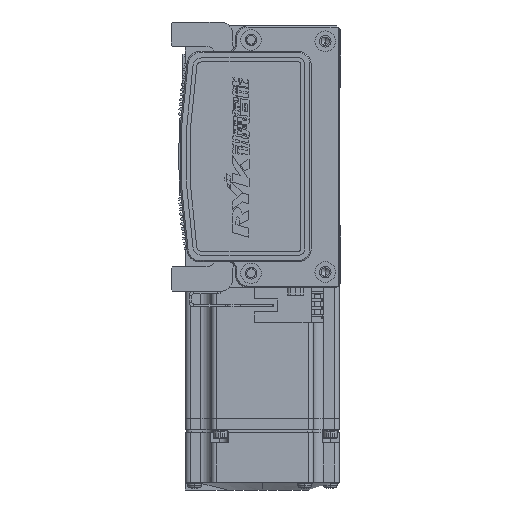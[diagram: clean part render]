
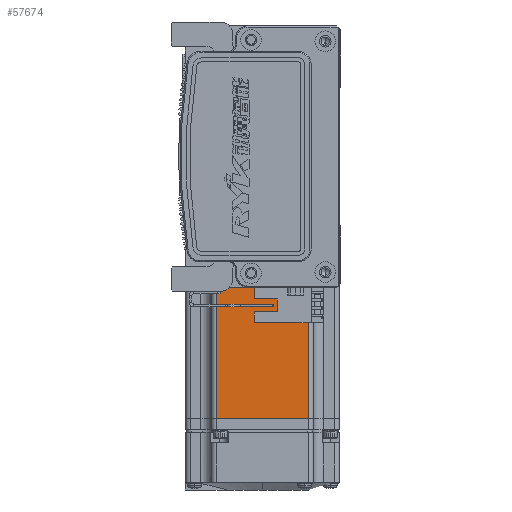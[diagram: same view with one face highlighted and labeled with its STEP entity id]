
A CAD part, left-side view. The second image highlights one B-rep face of the part: STEP entity #57674.
In plain terms, the highlighted planar face has unit normal (-1, 0, 0) as drawn and (0, 0, 1) by its records, which use the part's own axes.
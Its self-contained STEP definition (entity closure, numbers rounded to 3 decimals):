
#68 = LINE ( 'NONE', #31780, #12643 ) ;
#752 = CARTESIAN_POINT ( 'NONE',  ( -70.95, 18., 30. ) ) ;
#7444 = CARTESIAN_POINT ( 'NONE',  ( -6.5, -18., 30. ) ) ;
#12643 = VECTOR ( 'NONE', #46215, 1000. ) ;
#14830 = CARTESIAN_POINT ( 'NONE',  ( -70.95, -18., 30. ) ) ;
#15149 = ORIENTED_EDGE ( 'NONE', *, *, #42741, .F. ) ;
#21346 = VERTEX_POINT ( 'NONE', #752 ) ;
#24168 = VERTEX_POINT ( 'NONE', #58906 ) ;
#25101 = DIRECTION ( 'NONE',  ( 0., -1., 0. ) ) ;
#26485 = PLANE ( 'NONE',  #52940 ) ;
#26653 = DIRECTION ( 'NONE',  ( -1., 0., 0. ) ) ;
#27723 = VECTOR ( 'NONE', #52037, 1000. ) ;
#28506 = VERTEX_POINT ( 'NONE', #14830 ) ;
#29448 = CARTESIAN_POINT ( 'NONE',  ( -70.95, 0., 30. ) ) ;
#31508 = CARTESIAN_POINT ( 'NONE',  ( -6.5, -25., 30. ) ) ;
#31780 = CARTESIAN_POINT ( 'NONE',  ( -7.75, 0., 30. ) ) ;
#33301 = VECTOR ( 'NONE', #26653, 1000. ) ;
#36083 = DIRECTION ( 'NONE',  ( 1., 0., 0. ) ) ;
#36729 = EDGE_CURVE ( 'NONE', #43366, #28506, #45730, .T. ) ;
#37473 = EDGE_CURVE ( 'NONE', #21346, #28506, #50340, .T. ) ;
#41547 = DIRECTION ( 'NONE',  ( 0., 0., 1. ) ) ;
#41587 = ORIENTED_EDGE ( 'NONE', *, *, #37473, .T. ) ;
#42192 = ORIENTED_EDGE ( 'NONE', *, *, #57366, .T. ) ;
#42741 = EDGE_CURVE ( 'NONE', #24168, #43366, #68, .T. ) ;
#43366 = VERTEX_POINT ( 'NONE', #61724 ) ;
#45730 = LINE ( 'NONE', #7444, #27723 ) ;
#46215 = DIRECTION ( 'NONE',  ( 0., -1., 0. ) ) ;
#49700 = FACE_OUTER_BOUND ( 'NONE', #63661, .T. ) ;
#50340 = LINE ( 'NONE', #29448, #62097 ) ;
#52037 = DIRECTION ( 'NONE',  ( -1., 0., 0. ) ) ;
#52940 = AXIS2_PLACEMENT_3D ( 'NONE', #31508, #41547, #36083 ) ;
#53699 = LINE ( 'NONE', #56635, #33301 ) ;
#56635 = CARTESIAN_POINT ( 'NONE',  ( -6.5, 18., 30. ) ) ;
#57366 = EDGE_CURVE ( 'NONE', #24168, #21346, #53699, .T. ) ;
#57674 = ADVANCED_FACE ( 'NONE', ( #49700 ), #26485, .T. ) ;
#58906 = CARTESIAN_POINT ( 'NONE',  ( -7.75, 18., 30. ) ) ;
#61724 = CARTESIAN_POINT ( 'NONE',  ( -7.75, -18., 30. ) ) ;
#62097 = VECTOR ( 'NONE', #25101, 1000. ) ;
#63644 = ORIENTED_EDGE ( 'NONE', *, *, #36729, .F. ) ;
#63661 = EDGE_LOOP ( 'NONE', ( #15149, #42192, #41587, #63644 ) ) ;
